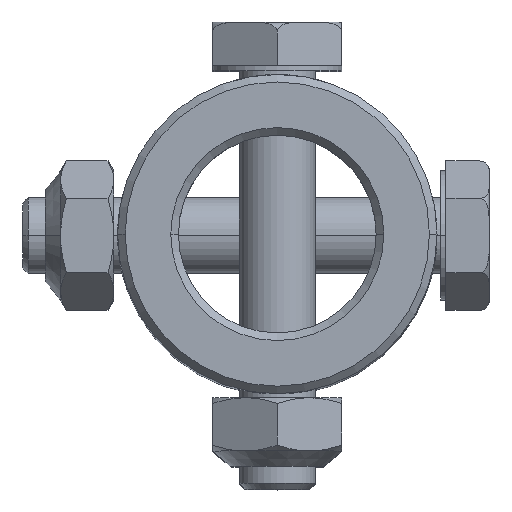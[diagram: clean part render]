
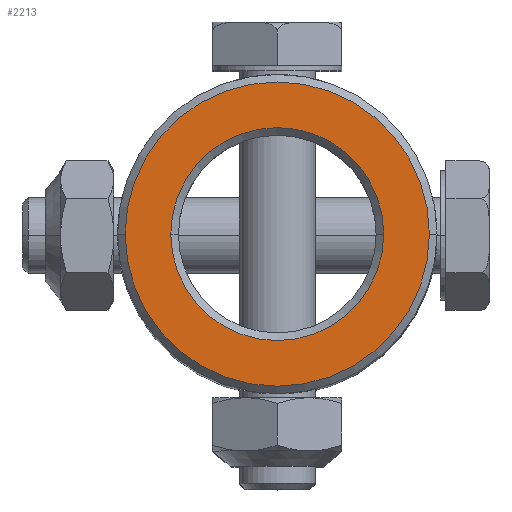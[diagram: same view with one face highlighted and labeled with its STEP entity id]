
A CAD part, top view. The second image highlights one B-rep face of the part: STEP entity #2213.
In plain terms, the highlighted planar face has unit normal (0, 0, 1).
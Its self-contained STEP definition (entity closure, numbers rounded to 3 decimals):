
#435 = EDGE_LOOP ( 'NONE', ( #5655, #9495 ) ) ;
#458 = DIRECTION ( 'NONE',  ( 0., 0., -1. ) ) ;
#476 = CARTESIAN_POINT ( 'NONE',  ( 20., 0., 0. ) ) ;
#715 = DIRECTION ( 'NONE',  ( 0., 0., 1. ) ) ;
#930 = VERTEX_POINT ( 'NONE', #4967 ) ;
#1403 = CARTESIAN_POINT ( 'NONE',  ( 0., 0., 0. ) ) ;
#2135 = DIRECTION ( 'NONE',  ( 1., 0., 0. ) ) ;
#2213 = ADVANCED_FACE ( 'NONE', ( #7207, #7411 ), #9293, .T. ) ;
#2232 = CARTESIAN_POINT ( 'NONE',  ( 0., 0., 0. ) ) ;
#2479 = AXIS2_PLACEMENT_3D ( 'NONE', #2979, #3708, #2135 ) ;
#2654 = ORIENTED_EDGE ( 'NONE', *, *, #7251, .T. ) ;
#2733 = CARTESIAN_POINT ( 'NONE',  ( 14., 0., 0. ) ) ;
#2955 = CIRCLE ( 'NONE', #2479, 20. ) ;
#2979 = CARTESIAN_POINT ( 'NONE',  ( 0., 0., 0. ) ) ;
#3239 = DIRECTION ( 'NONE',  ( 1., 0., 0. ) ) ;
#3640 = VERTEX_POINT ( 'NONE', #476 ) ;
#3706 = AXIS2_PLACEMENT_3D ( 'NONE', #9046, #3834, #7861 ) ;
#3708 = DIRECTION ( 'NONE',  ( 0., 0., 1. ) ) ;
#3834 = DIRECTION ( 'NONE',  ( 0., 0., -1. ) ) ;
#3957 = VERTEX_POINT ( 'NONE', #2733 ) ;
#4178 = EDGE_LOOP ( 'NONE', ( #7771, #2654 ) ) ;
#4673 = CIRCLE ( 'NONE', #9021, 20. ) ;
#4967 = CARTESIAN_POINT ( 'NONE',  ( -14., 0., 0. ) ) ;
#5104 = VERTEX_POINT ( 'NONE', #7934 ) ;
#5550 = DIRECTION ( 'NONE',  ( 0., 0., 1. ) ) ;
#5655 = ORIENTED_EDGE ( 'NONE', *, *, #6489, .T. ) ;
#5704 = EDGE_CURVE ( 'NONE', #5104, #3640, #4673, .T. ) ;
#6257 = EDGE_CURVE ( 'NONE', #930, #3957, #7055, .T. ) ;
#6308 = DIRECTION ( 'NONE',  ( 1., 0., 0. ) ) ;
#6489 = EDGE_CURVE ( 'NONE', #3957, #930, #8144, .T. ) ;
#7055 = CIRCLE ( 'NONE', #8965, 14. ) ;
#7207 = FACE_BOUND ( 'NONE', #435, .T. ) ;
#7251 = EDGE_CURVE ( 'NONE', #3640, #5104, #2955, .T. ) ;
#7411 = FACE_OUTER_BOUND ( 'NONE', #4178, .T. ) ;
#7771 = ORIENTED_EDGE ( 'NONE', *, *, #5704, .T. ) ;
#7861 = DIRECTION ( 'NONE',  ( 1., 0., 0. ) ) ;
#7934 = CARTESIAN_POINT ( 'NONE',  ( -20., 0., 0. ) ) ;
#8144 = CIRCLE ( 'NONE', #3706, 14. ) ;
#8396 = CARTESIAN_POINT ( 'NONE',  ( 0., 0., 0. ) ) ;
#8829 = AXIS2_PLACEMENT_3D ( 'NONE', #8396, #5550, #6308 ) ;
#8965 = AXIS2_PLACEMENT_3D ( 'NONE', #1403, #458, #3239 ) ;
#9021 = AXIS2_PLACEMENT_3D ( 'NONE', #2232, #715, #9540 ) ;
#9046 = CARTESIAN_POINT ( 'NONE',  ( 0., 0., 0. ) ) ;
#9293 = PLANE ( 'NONE',  #8829 ) ;
#9495 = ORIENTED_EDGE ( 'NONE', *, *, #6257, .T. ) ;
#9540 = DIRECTION ( 'NONE',  ( 1., 0., 0. ) ) ;
